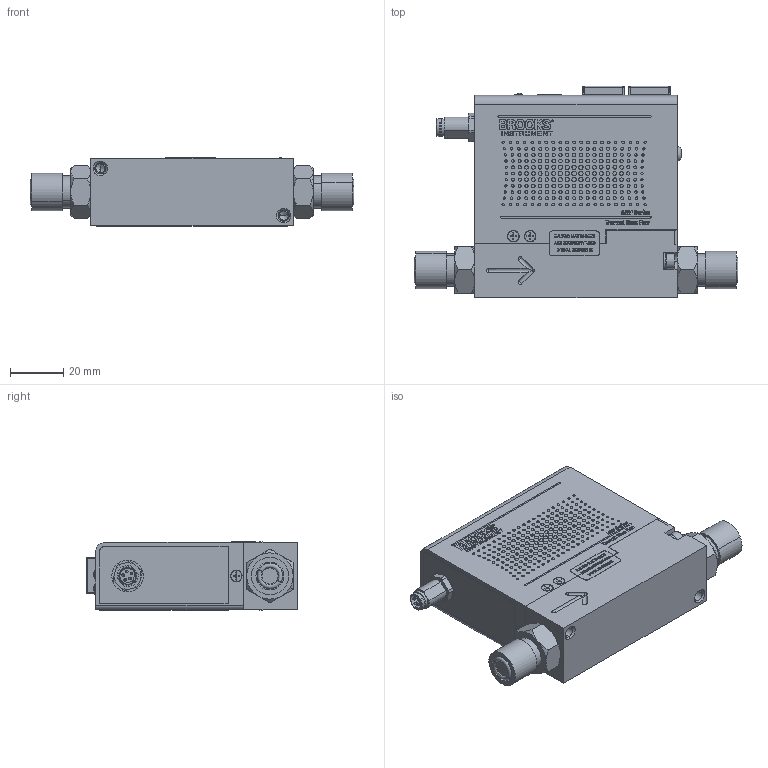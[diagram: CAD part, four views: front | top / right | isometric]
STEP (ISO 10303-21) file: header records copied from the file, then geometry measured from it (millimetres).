
FILE_DESCRIPTION (( 'STEP AP203' ), '1' );
FILE_NAME ('AMF-C-7-S-1F-A.STEP', '2026-05-21T17:18:44', ( '' ), ( '' ), 'SwSTEP 2.0', 'SolidWorks 2023', '' );
FILE_SCHEMA (( 'CONFIG_CONTROL_DESIGN' ));
Products named in the file (1): AMF-C-7-S-1F-A
Bounding box: 122.02 x 79.61 x 25.82 mm (x, y, z)
Volume: 32303.4 mm3; surface area: 47800 mm2
Topology: 34 solids, 37 shells, 3898 faces, 9862 edges, 6420 vertices
Faces by surface type: plane 2007, bspline 1239, cylinder 457, cone 141, torus 37, sphere 17
Entity records: 143271 total; most frequent: CARTESIAN_POINT 58159, ORIENTED_EDGE 19632, DIRECTION 13198, EDGE_CURVE 9816, VERTEX_POINT 6404, LINE 6036, VECTOR 6036, EDGE_LOOP 4378
